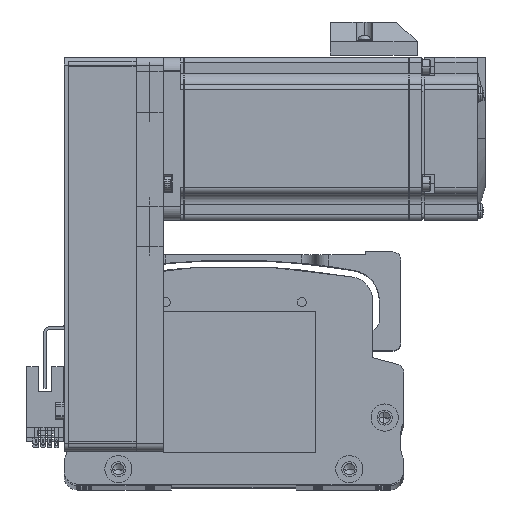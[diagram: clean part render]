
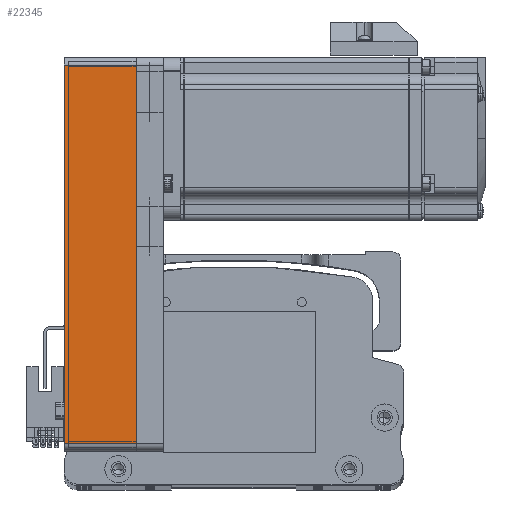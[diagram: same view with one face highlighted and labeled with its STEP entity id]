
A CAD part, top view. The second image highlights one B-rep face of the part: STEP entity #22345.
In plain terms, the highlighted planar face has unit normal (0, 0, 1) as drawn and (0, -1, 0) by its records, which use the part's own axes.
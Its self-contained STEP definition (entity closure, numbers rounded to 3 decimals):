
#1264 = VERTEX_POINT ( 'NONE', #68187 ) ;
#1896 = CARTESIAN_POINT ( 'NONE',  ( 72.5, -30., 26.5 ) ) ;
#8262 = VERTEX_POINT ( 'NONE', #70658 ) ;
#11713 = VECTOR ( 'NONE', #51047, 1000. ) ;
#12453 = CARTESIAN_POINT ( 'NONE',  ( 69.5, -30., 26.5 ) ) ;
#12558 = VERTEX_POINT ( 'NONE', #63916 ) ;
#14020 = LINE ( 'NONE', #57608, #46312 ) ;
#18877 = DIRECTION ( 'NONE',  ( 1., 0., 0. ) ) ;
#19484 = ORIENTED_EDGE ( 'NONE', *, *, #66660, .T. ) ;
#22345 = ADVANCED_FACE ( 'NONE', ( #35691 ), #57715, .F. ) ;
#22915 = ORIENTED_EDGE ( 'NONE', *, *, #68074, .T. ) ;
#25814 = DIRECTION ( 'NONE',  ( 0., 1., 0. ) ) ;
#26801 = VECTOR ( 'NONE', #82346, 1000. ) ;
#29624 = EDGE_CURVE ( 'NONE', #8262, #77152, #45931, .T. ) ;
#33981 = DIRECTION ( 'NONE',  ( 1., 0., 0. ) ) ;
#35691 = FACE_OUTER_BOUND ( 'NONE', #72149, .T. ) ;
#37897 = LINE ( 'NONE', #1896, #53027 ) ;
#45931 = LINE ( 'NONE', #75877, #26801 ) ;
#46312 = VECTOR ( 'NONE', #18877, 1000. ) ;
#50955 = EDGE_CURVE ( 'NONE', #8262, #1264, #37897, .T. ) ;
#51047 = DIRECTION ( 'NONE',  ( 0., 0., 1. ) ) ;
#51065 = AXIS2_PLACEMENT_3D ( 'NONE', #64460, #25814, #70979 ) ;
#53027 = VECTOR ( 'NONE', #33981, 1000. ) ;
#57608 = CARTESIAN_POINT ( 'NONE',  ( 72.5, -30., 0. ) ) ;
#57715 = PLANE ( 'NONE',  #51065 ) ;
#63916 = CARTESIAN_POINT ( 'NONE',  ( 69.5, -30., 0. ) ) ;
#64460 = CARTESIAN_POINT ( 'NONE',  ( 72.5, -30., 26.5 ) ) ;
#65188 = LINE ( 'NONE', #12453, #11713 ) ;
#66660 = EDGE_CURVE ( 'NONE', #77152, #12558, #14020, .T. ) ;
#68074 = EDGE_CURVE ( 'NONE', #12558, #1264, #65188, .T. ) ;
#68187 = CARTESIAN_POINT ( 'NONE',  ( 69.5, -30., 26.5 ) ) ;
#69598 = ORIENTED_EDGE ( 'NONE', *, *, #29624, .T. ) ;
#70658 = CARTESIAN_POINT ( 'NONE',  ( -69.5, -30., 26.5 ) ) ;
#70979 = DIRECTION ( 'NONE',  ( -1., 0., 0. ) ) ;
#72149 = EDGE_LOOP ( 'NONE', ( #19484, #22915, #76268, #69598 ) ) ;
#75877 = CARTESIAN_POINT ( 'NONE',  ( -69.5, -30., 26.5 ) ) ;
#76268 = ORIENTED_EDGE ( 'NONE', *, *, #50955, .F. ) ;
#77152 = VERTEX_POINT ( 'NONE', #80629 ) ;
#80629 = CARTESIAN_POINT ( 'NONE',  ( -69.5, -30., 0. ) ) ;
#82346 = DIRECTION ( 'NONE',  ( 0., 0., -1. ) ) ;
